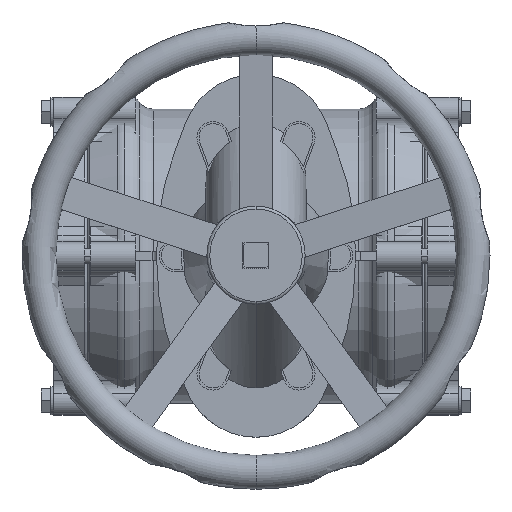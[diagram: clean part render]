
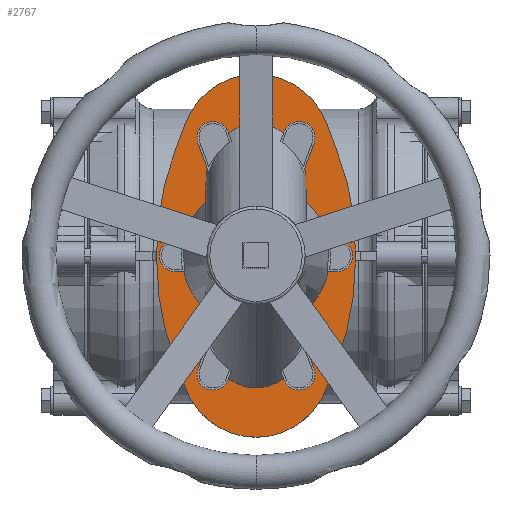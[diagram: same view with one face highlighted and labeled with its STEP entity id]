
A CAD part, top view. The second image highlights one B-rep face of the part: STEP entity #2767.
In plain terms, the highlighted planar face has unit normal (0, 0, 1).
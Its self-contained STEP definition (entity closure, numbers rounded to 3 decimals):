
#2767=ADVANCED_FACE('',(#5613),#5614,.T.);
#5613=FACE_OUTER_BOUND('',#9393,.T.);
#5614=PLANE('',#9394);
#9393=EDGE_LOOP('',(#14014,#14015,#14016,#14017,#14018,#14019,#14020,#14021,#14022,#14023,#14024,#14025,#14026,#14027));
#9394=AXIS2_PLACEMENT_3D('',#14028,#14029,#14030);
#14014=ORIENTED_EDGE('',*,*,#21645,.F.);
#14015=ORIENTED_EDGE('',*,*,#21564,.F.);
#14016=ORIENTED_EDGE('',*,*,#21646,.F.);
#14017=ORIENTED_EDGE('',*,*,#21647,.F.);
#14018=ORIENTED_EDGE('',*,*,#21648,.F.);
#14019=ORIENTED_EDGE('',*,*,#21604,.F.);
#14020=ORIENTED_EDGE('',*,*,#21649,.F.);
#14021=ORIENTED_EDGE('',*,*,#21650,.F.);
#14022=ORIENTED_EDGE('',*,*,#21651,.F.);
#14023=ORIENTED_EDGE('',*,*,#21063,.F.);
#14024=ORIENTED_EDGE('',*,*,#20939,.F.);
#14025=ORIENTED_EDGE('',*,*,#20460,.F.);
#14026=ORIENTED_EDGE('',*,*,#21652,.F.);
#14027=ORIENTED_EDGE('',*,*,#21235,.F.);
#14028=CARTESIAN_POINT('',(60.049,0.001,338.0));
#14029=DIRECTION('',(0.0,0.0,1.0));
#14030=DIRECTION('',(1.0,0.0,0.0));
#20460=EDGE_CURVE('',#23902,#23897,#23904,.T.);
#20939=EDGE_CURVE('',#23897,#24749,#24750,.T.);
#21063=EDGE_CURVE('',#24749,#24949,#24950,.T.);
#21235=EDGE_CURVE('',#25223,#25218,#25225,.T.);
#21564=EDGE_CURVE('',#25752,#25753,#25754,.T.);
#21604=EDGE_CURVE('',#25811,#25813,#25814,.T.);
#21645=EDGE_CURVE('',#25753,#25223,#25875,.T.);
#21646=EDGE_CURVE('',#25876,#25752,#25877,.T.);
#21647=EDGE_CURVE('',#25878,#25876,#25879,.T.);
#21648=EDGE_CURVE('',#25813,#25878,#25880,.T.);
#21649=EDGE_CURVE('',#25881,#25811,#25882,.T.);
#21650=EDGE_CURVE('',#25883,#25881,#25884,.T.);
#21651=EDGE_CURVE('',#24949,#25883,#25885,.T.);
#21652=EDGE_CURVE('',#25218,#23902,#25886,.T.);
#23897=VERTEX_POINT('',#28811);
#23902=VERTEX_POINT('',#28817);
#23904=CIRCLE('',#28820,283.766);
#24749=VERTEX_POINT('',#29955);
#24750=CIRCLE('',#29956,283.766);
#24949=VERTEX_POINT('',#30207);
#24950=LINE('',#30208,#30209);
#25218=VERTEX_POINT('',#30556);
#25223=VERTEX_POINT('',#30562);
#25225=CIRCLE('',#30565,283.766);
#25752=VERTEX_POINT('',#31282);
#25753=VERTEX_POINT('',#31283);
#25754=CIRCLE('',#31284,77.985);
#25811=VERTEX_POINT('',#31361);
#25813=VERTEX_POINT('',#31364);
#25814=CIRCLE('',#31365,271.3);
#25875=LINE('',#31445,#31446);
#25876=VERTEX_POINT('',#31447);
#25877=LINE('',#31448,#31449);
#25878=VERTEX_POINT('',#31450);
#25879=CIRCLE('',#31451,271.31);
#25880=CIRCLE('',#31452,271.31);
#25881=VERTEX_POINT('',#31453);
#25882=CIRCLE('',#31454,271.3);
#25883=VERTEX_POINT('',#31455);
#25884=LINE('',#31456,#31457);
#25885=CIRCLE('',#31458,77.985);
#25886=CIRCLE('',#31459,283.766);
#28811=CARTESIAN_POINT('',(-42.971,6.69,338.0));
#28817=CARTESIAN_POINT('',(-42.892,0.,338.0));
#28820=AXIS2_PLACEMENT_3D('',#35229,#35230,#35231);
#29955=CARTESIAN_POINT('',(-24.718,106.82,338.0));
#29956=AXIS2_PLACEMENT_3D('',#35887,#35888,#35889);
#30207=CARTESIAN_POINT('',(-12.961,137.997,338.0));
#30208=CARTESIAN_POINT('',(-12.961,137.997,338.0));
#30209=VECTOR('',#36059,1.0);
#30556=CARTESIAN_POINT('',(-42.971,-6.69,338.0));
#30562=CARTESIAN_POINT('',(-24.718,-106.82,338.0));
#30565=AXIS2_PLACEMENT_3D('',#36288,#36289,#36290);
#31282=CARTESIAN_POINT('',(132.98,-137.977,338.0));
#31283=CARTESIAN_POINT('',(-12.961,-137.997,338.0));
#31284=AXIS2_PLACEMENT_3D('',#36715,#36716,#36717);
#31361=CARTESIAN_POINT('',(163.037,8.851,338.0));
#31364=CARTESIAN_POINT('',(162.892,0.0,338.0));
#31365=AXIS2_PLACEMENT_3D('',#36760,#36761,#36762);
#31445=CARTESIAN_POINT('',(-24.718,-106.82,338.0));
#31446=VECTOR('',#36812,1.0);
#31447=CARTESIAN_POINT('',(144.718,-106.82,338.0));
#31448=CARTESIAN_POINT('',(132.98,-137.977,338.0));
#31449=VECTOR('',#36813,1.0);
#31450=CARTESIAN_POINT('',(163.036,-8.821,338.0));
#31451=AXIS2_PLACEMENT_3D('',#36814,#36815,#36816);
#31452=AXIS2_PLACEMENT_3D('',#36817,#36818,#36819);
#31453=CARTESIAN_POINT('',(144.729,106.824,338.0));
#31454=AXIS2_PLACEMENT_3D('',#36820,#36821,#36822);
#31455=CARTESIAN_POINT('',(132.971,138.001,338.0));
#31456=CARTESIAN_POINT('',(144.729,106.824,338.0));
#31457=VECTOR('',#36823,1.0);
#31458=AXIS2_PLACEMENT_3D('',#36824,#36825,#36826);
#31459=AXIS2_PLACEMENT_3D('',#36827,#36828,#36829);
#35229=CARTESIAN_POINT('',(240.795,6.69,338.0));
#35230=DIRECTION('',(0.0,0.0,-1.0));
#35231=DIRECTION('',(1.0,0.0,0.0));
#35887=CARTESIAN_POINT('',(240.795,6.69,338.0));
#35888=DIRECTION('',(0.0,0.0,-1.0));
#35889=DIRECTION('',(1.0,0.0,0.0));
#36059=DIRECTION('',(0.353,0.936,0.0));
#36288=CARTESIAN_POINT('',(240.795,-6.69,338.0));
#36289=DIRECTION('',(0.0,0.0,-1.0));
#36290=DIRECTION('',(1.0,0.0,0.0));
#36715=CARTESIAN_POINT('',(60.006,-110.473,338.0));
#36716=DIRECTION('',(0.0,0.0,-1.0));
#36717=DIRECTION('',(1.0,0.0,0.0));
#36760=CARTESIAN_POINT('',(-108.264,8.851,338.0));
#36761=DIRECTION('',(0.0,0.0,-1.0));
#36762=DIRECTION('',(1.0,0.0,0.0));
#36812=DIRECTION('',(-0.353,0.936,0.0));
#36813=DIRECTION('',(-0.353,-0.936,-0.0));
#36814=CARTESIAN_POINT('',(-108.275,-8.821,338.0));
#36815=DIRECTION('',(0.0,0.0,-1.0));
#36816=DIRECTION('',(1.0,0.0,0.0));
#36817=CARTESIAN_POINT('',(-108.275,-8.821,338.0));
#36818=DIRECTION('',(0.0,0.0,-1.0));
#36819=DIRECTION('',(1.0,0.0,0.0));
#36820=CARTESIAN_POINT('',(-108.264,8.851,338.0));
#36821=DIRECTION('',(0.0,0.0,-1.0));
#36822=DIRECTION('',(1.0,0.0,0.0));
#36823=DIRECTION('',(0.353,-0.936,0.0));
#36824=CARTESIAN_POINT('',(60.006,110.473,338.0));
#36825=DIRECTION('',(0.0,0.0,-1.0));
#36826=DIRECTION('',(1.0,0.0,0.0));
#36827=CARTESIAN_POINT('',(240.795,-6.69,338.0));
#36828=DIRECTION('',(0.0,0.0,-1.0));
#36829=DIRECTION('',(1.0,0.0,0.0));
